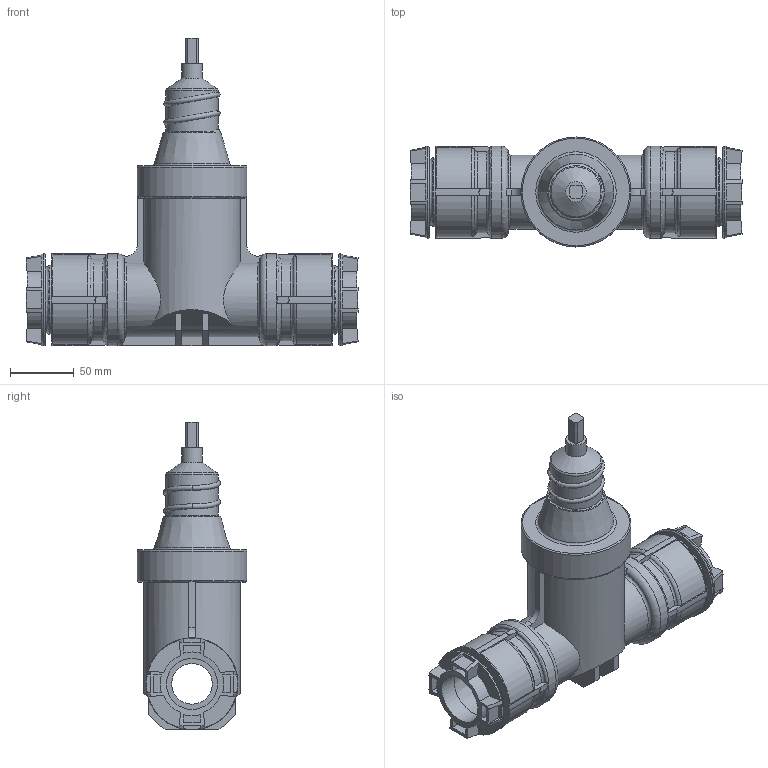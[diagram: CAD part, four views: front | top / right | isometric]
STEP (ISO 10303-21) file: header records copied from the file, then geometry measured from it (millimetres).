
FILE_DESCRIPTION( ( 'STEP AP203' ), '1' );
FILE_NAME( 'p:/temp/worker_206/temp/exporttempdir_4424_61_Xn0HB/format_0/5003293 2631 DN1 1_4 (400).stp', '2021-01-13T08:14:48', ( 'License CC BY-ND 4.0' ), ( 'CADENAS' ), ' ', 'PARTsolutions', ' ' );
FILE_SCHEMA( ( 'CONFIG_CONTROL_DESIGN' ) );
Length unit declared in the file: millimetre
Products named in the file (1): _5003293 2631 DN1 1/4 (400)
Bounding box: 260 x 86.14 x 241 mm (x, y, z)
Volume: 1021279 mm3; surface area: 150639.2 mm2
Topology: 1 solids, 1 shells, 294 faces, 805 edges, 528 vertices
Faces by surface type: plane 173, cylinder 64, torus 49, cone 8
Full cylindrical faces by diameter (mm): 16 x1, 31.75 x1, 40 x4, 40.84 x2, 54 x2, 72 x6, 86.14 x1
Entity records: 10552 total; most frequent: CARTESIAN_POINT 3562, ORIENTED_EDGE 1494, DIRECTION 1332, EDGE_CURVE 747, VERTEX_POINT 512, AXIS2_PLACEMENT_3D 504, EDGE_LOOP 349, LINE 324
